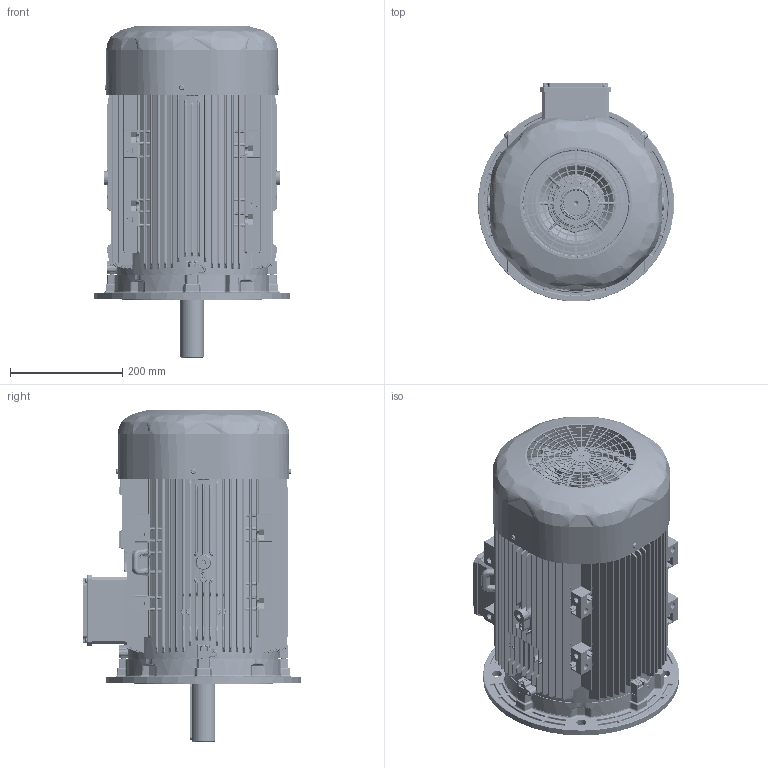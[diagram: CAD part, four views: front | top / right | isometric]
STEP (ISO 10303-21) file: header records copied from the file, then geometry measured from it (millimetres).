
FILE_DESCRIPTION(/* description */ (''),/* implementation_level */ '2;1');
FILE_NAME(/* name */ 'OUTLOOK VIEW QH160 FA B5 FF300 SPL.stp',/* time_stamp */ '2021-09-21T15:41:01+03:00',/* author */ (''),/* organization */ (''),/* preprocessor_version */ 'ST-DEVELOPER v16',/* originating_system */ 'SIEMENS PLM Software NX 11.0',/* authorisation */ '');
FILE_SCHEMA (('AUTOMOTIVE_DESIGN { 1 0 10303 214 3 1 1 1 }'));
Products named in the file (1): 260652D491E0rxq5
Bounding box: 348.17 x 389.08 x 591 mm (x, y, z)
Volume: 6894963.2 mm3; surface area: 2523532.7 mm2
Topology: 218 solids, 218 shells, 14027 faces, 32686 edges, 18595 vertices
Faces by surface type: cylinder 4375, bspline 4282, plane 3303, sphere 796, torus 742, cone 517, extrusion 12
Full cylindrical faces by diameter (mm): 2.5 x9, 3.5 x2, 4 x4, 4.2 x4, 4.3 x4, 5.5 x8, 5.6 x1, 8 x20, 8.028 x3, 8.4 x4, 8.5 x7, 10 x1, 10.2 x1, 13 x9, 15 x1, 16 x4, 17 x4, 25 x1, 30.38 x2, 33.6 x1, 34.2 x1, 41.4 x1, 42 x1, 42.5 x1, 44.4 x2, 45 x7, 45.5 x1, 54.8 x1, 57.6 x2, 62.18 x3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
Entity records: 467854 total; most frequent: CARTESIAN_POINT 172519, ORIENTED_EDGE 62424, DIRECTION 59291, EDGE_CURVE 31212, AXIS2_PLACEMENT_3D 24005, VERTEX_POINT 18329, EDGE_LOOP 15255, ADVANCED_FACE 14021
